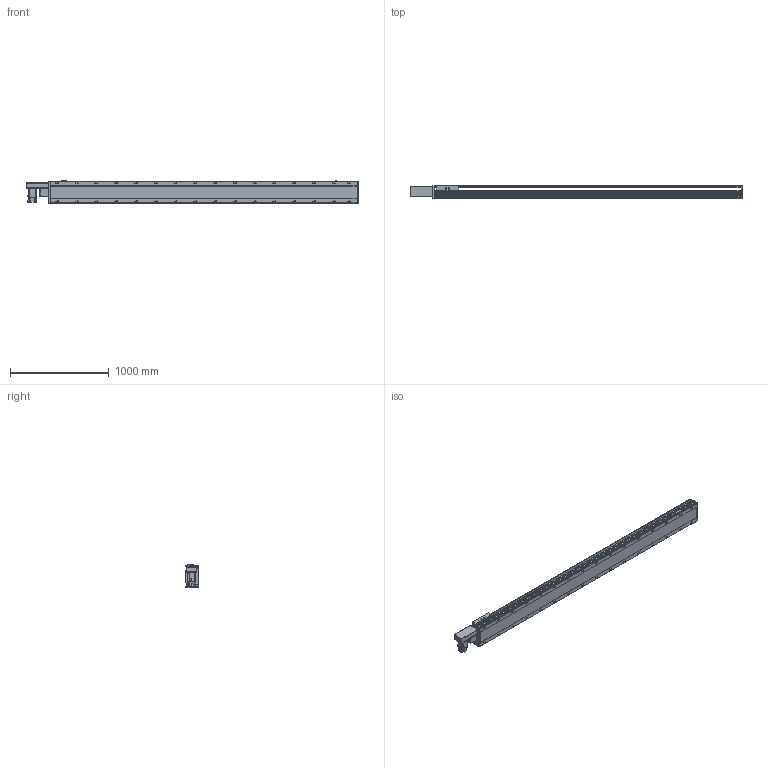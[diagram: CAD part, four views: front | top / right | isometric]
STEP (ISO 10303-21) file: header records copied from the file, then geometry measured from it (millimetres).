
FILE_DESCRIPTION(/* description */ ('STEP AP214'),/* implementation_level */ '2;1');
FILE_NAME(/* name */ 'PBS220-P40-S2750-R-T75-C1-N(0)',/* time_stamp */ '2022-06-11T10:03:17+02:00',/* author */ ('License CC BY-ND 4.0'),/* organization */ ('CADENAS'),/* preprocessor_version */ 'ST-DEVELOPER v18.102',/* originating_system */ 'PARTsolutions',/* authorisation */ ' ');
FILE_SCHEMA (('AUTOMOTIVE_DESIGN {1 0 10303 214 3 1 1}'));
Length unit declared in the file: millimetre
Products named in the file (7): PBS220-P40-S2750-R-T75-C1-N(0); PBS220_sensor; PBS220_plant; PBS220_sliser; T75-p1; PBS220T-R_motors; PBS220-S2750()_body
Assembly tree (8 placements, depth 2):
  PBS220-P40-S2750-R-T75-C1-N(0)
    PBS220_sensor  x3
    PBS220_plant
    PBS220_sliser
    T75-p1
    PBS220T-R_motors
    PBS220-S2750()_body
Bounding box: 3356 x 134 x 238.5 mm (x, y, z)
Volume: 45026023.8 mm3; surface area: 4105703.4 mm2
Topology: 8 solids, 8 shells, 1010 faces, 2620 edges, 1702 vertices
Faces by surface type: plane 630, cylinder 324, cone 56
Full cylindrical faces by diameter (mm): 2.013 x4, 4.5 x14, 4.917 x4, 6 x7, 6.647 x8, 8 x10, 8.376 x32, 8.5 x32, 10 x6, 14 x32, 38 x2, 40 x1, 70 x1
Entity records: 28125 total; most frequent: CARTESIAN_POINT 5020, DIRECTION 4887, ORIENTED_EDGE 4394, EDGE_CURVE 2197, AXIS2_PLACEMENT_3D 1763, VERTEX_POINT 1544, LINE 1361, VECTOR 1361
